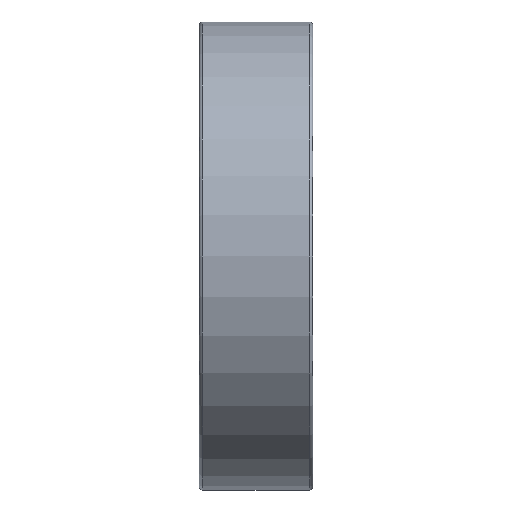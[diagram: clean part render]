
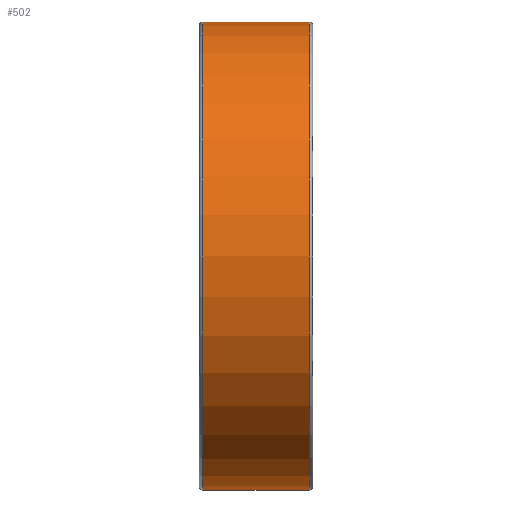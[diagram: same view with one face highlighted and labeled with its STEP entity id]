
A CAD part, front view. The second image highlights one B-rep face of the part: STEP entity #502.
In plain terms, the highlighted cylindrical face has radius 18.5 mm (diameter 37 mm), a full revolution.
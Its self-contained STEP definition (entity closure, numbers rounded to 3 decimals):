
#158=CYLINDRICAL_SURFACE('',#778,18.5);
#246=EDGE_LOOP('',(#346));
#247=EDGE_LOOP('',(#347));
#346=ORIENTED_EDGE('',*,*,#404,.F.);
#347=ORIENTED_EDGE('',*,*,#402,.T.);
#402=EDGE_CURVE('',#711,#711,#422,.T.);
#404=EDGE_CURVE('',#713,#713,#424,.T.);
#422=CIRCLE('',#774,18.5);
#424=CIRCLE('',#777,18.5);
#502=ADVANCED_FACE('',(#625,#626),#158,.T.);
#625=FACE_BOUND('',#246,.T.);
#626=FACE_BOUND('',#247,.T.);
#711=VERTEX_POINT('',#2778);
#713=VERTEX_POINT('',#2783);
#774=AXIS2_PLACEMENT_3D('',#2777,#893,#894);
#777=AXIS2_PLACEMENT_3D('',#2782,#899,#900);
#778=AXIS2_PLACEMENT_3D('',#2784,#901,#902);
#893=DIRECTION('',(1.,0.,0.));
#894=DIRECTION('',(0.,0.,-1.));
#899=DIRECTION('',(1.,0.,0.));
#900=DIRECTION('',(0.,0.,-1.));
#901=DIRECTION('',(1.,0.,0.));
#902=DIRECTION('',(0.,0.,-1.));
#2777=CARTESIAN_POINT('',(-4.2,0.,0.));
#2778=CARTESIAN_POINT('',(-4.2,0.,-18.5));
#2782=CARTESIAN_POINT('',(4.2,0.,0.));
#2783=CARTESIAN_POINT('',(4.2,0.,-18.5));
#2784=CARTESIAN_POINT('',(-4.2,0.,0.));
